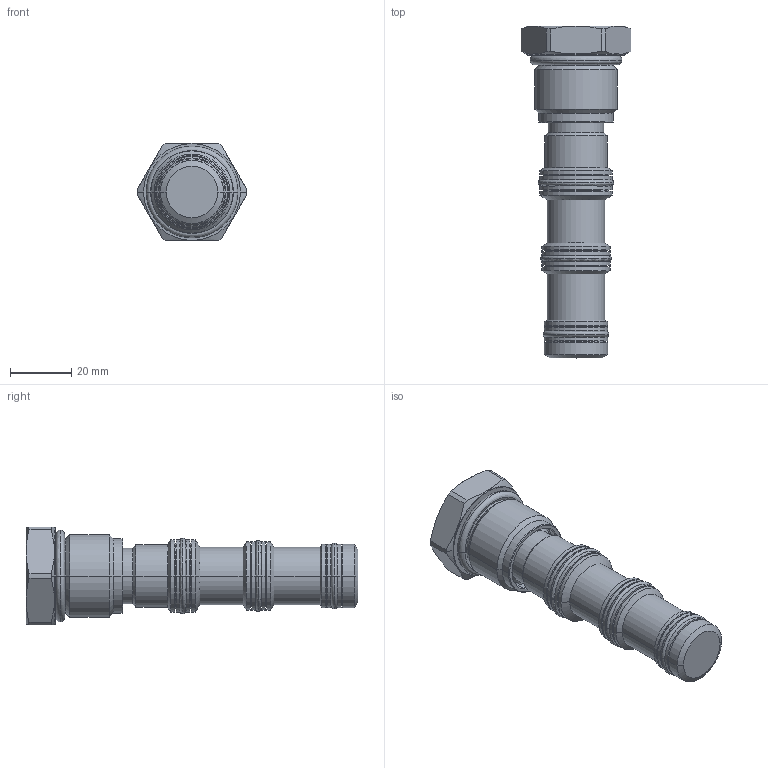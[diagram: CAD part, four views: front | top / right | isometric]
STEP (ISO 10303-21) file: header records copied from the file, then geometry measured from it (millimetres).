
FILE_DESCRIPTION((''),'2;1');
FILE_NAME('5436400_SW0001','2009-02-09T',('jcs'),(''),'PRO/ENGINEER BY PARAMETRIC TECHNOLOGY CORPORATION, 2008010','PRO/ENGINEER BY PARAMETRIC TECHNOLOGY CORPORATION, 2008010','');
FILE_SCHEMA(('CONFIG_CONTROL_DESIGN'));
Length unit declared in the file: inch
Products named in the file (1): 5436400_SW0001
Bounding box: 35.81 x 108.05 x 31.75 mm (x, y, z)
Volume: 44465.5 mm3; surface area: 13428.7 mm2
Topology: 5 solids, 5 shells, 187 faces, 384 edges, 220 vertices
Faces by surface type: cylinder 66, cone 32, revolution 32, plane 29, torus 28
Entity records: 5530 total; most frequent: CARTESIAN_POINT 1463, DIRECTION 912, ORIENTED_EDGE 768, AXIS2_PLACEMENT_3D 391, EDGE_CURVE 384, CIRCLE 236, VERTEX_POINT 220, EDGE_LOOP 208
